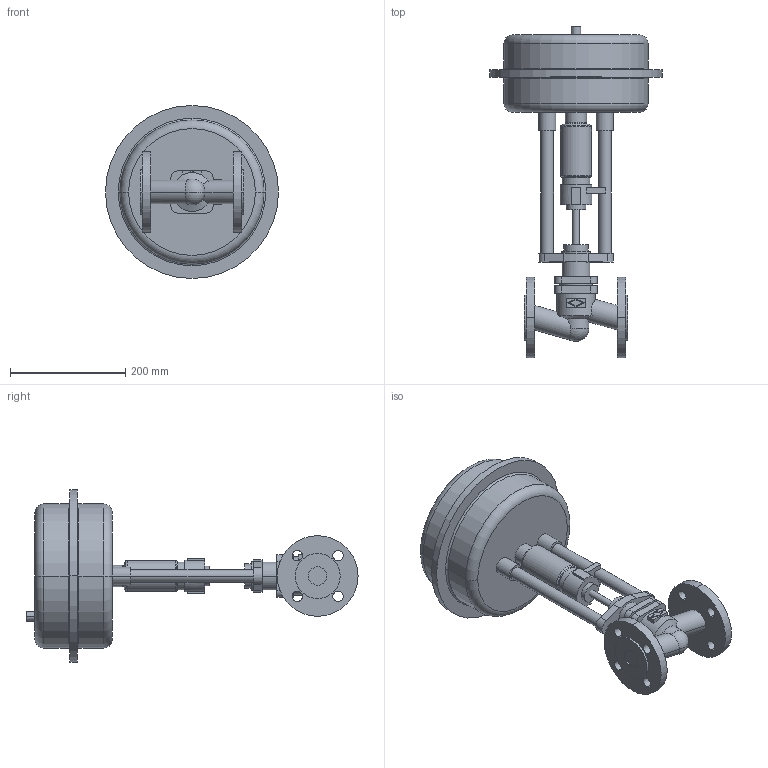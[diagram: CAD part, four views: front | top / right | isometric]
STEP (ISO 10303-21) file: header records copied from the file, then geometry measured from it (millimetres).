
FILE_DESCRIPTION(('OneSpaceDesigner STEP Export'),'2;1');
FILE_NAME('c000001477.stp','2005-02-15T 9:27:04',(''),(''),'OneSpace Designer STEP processor (Jan. 2003) for AP203(Solid Model)','OneSpace Designer 12.01D 09-Jul-2004 (C) CoCreate Software GmbH','');
FILE_SCHEMA(('CONFIG_CONTROL_DESIGN'));
Length unit declared in the file: millimetre
Products named in the file (2): 1; 2
Bounding box: 300 x 576.1 x 300 mm (x, y, z)
Volume: 8440084.7 mm3; surface area: 448069.3 mm2
Topology: 2 solids, 2 shells, 181 faces, 434 edges, 282 vertices
Faces by surface type: cylinder 84, plane 73, torus 16, cone 6, sphere 2
Entity records: 5035 total; most frequent: CARTESIAN_POINT 982, ORIENTED_EDGE 864, DIRECTION 727, EDGE_CURVE 432, VERTEX_POINT 282, AXIS2_PLACEMENT_3D 264, EDGE_LOOP 224, VECTOR 199
